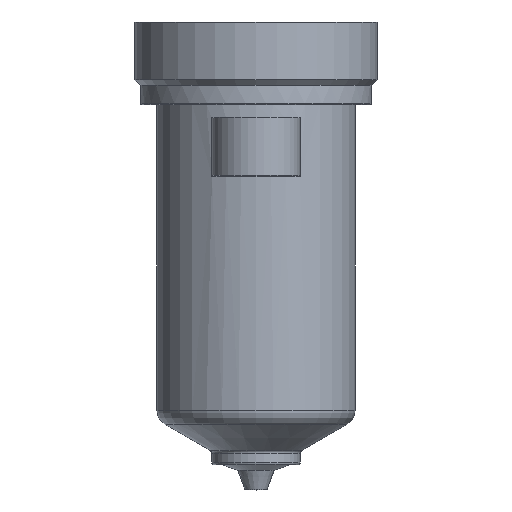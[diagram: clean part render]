
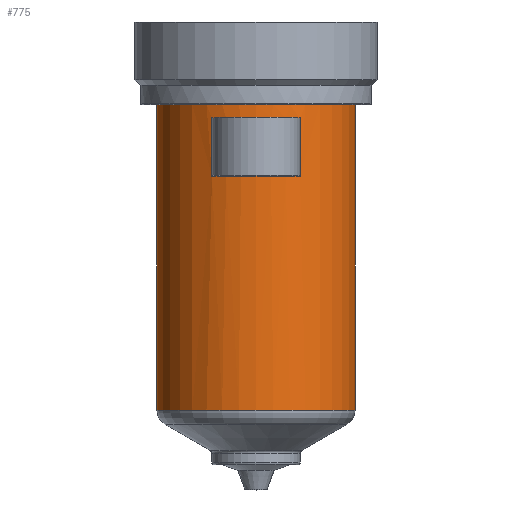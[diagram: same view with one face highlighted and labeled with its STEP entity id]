
A CAD part, top view. The second image highlights one B-rep face of the part: STEP entity #775.
In plain terms, the highlighted cylindrical face has radius 18 mm (diameter 36 mm), a partial arc.
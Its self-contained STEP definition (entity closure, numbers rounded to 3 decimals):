
#187=DIRECTION('',(0.,-1.,0.));
#188=VECTOR('',#187,55.506);
#189=CARTESIAN_POINT('',(18.,0.,0.));
#190=LINE('',#189,#188);
#191=CARTESIAN_POINT('',(0.,-55.506,0.));
#192=DIRECTION('',(0.,1.,0.));
#193=DIRECTION('',(-1.,0.,0.));
#194=AXIS2_PLACEMENT_3D('',#191,#192,#193);
#196=DIRECTION('',(0.,1.,0.));
#197=VECTOR('',#196,55.506);
#198=CARTESIAN_POINT('',(-18.,-55.506,0.));
#199=LINE('',#198,#197);
#200=CARTESIAN_POINT('',(0.,0.,0.));
#201=DIRECTION('',(0.,1.,0.));
#202=DIRECTION('',(-1.,0.,0.));
#203=AXIS2_PLACEMENT_3D('',#200,#201,#202);
#349=DIRECTION('',(0.,-1.,0.));
#350=VECTOR('',#349,10.5);
#351=CARTESIAN_POINT('',(-8.,-2.5,16.125));
#352=LINE('',#351,#350);
#353=CARTESIAN_POINT('',(0.,-13.,0.));
#354=DIRECTION('',(0.,1.,0.));
#355=DIRECTION('',(-0.444,0.,0.896));
#356=AXIS2_PLACEMENT_3D('',#353,#354,#355);
#379=CARTESIAN_POINT('',(0.,-2.5,0.));
#380=DIRECTION('',(0.,-1.,0.));
#381=DIRECTION('',(0.444,0.,0.896));
#382=AXIS2_PLACEMENT_3D('',#379,#380,#381);
#397=DIRECTION('',(0.,-1.,0.));
#398=VECTOR('',#397,10.5);
#399=CARTESIAN_POINT('',(8.,-2.5,16.125));
#400=LINE('',#399,#398);
#458=CARTESIAN_POINT('',(-18.,0.,0.));
#459=CARTESIAN_POINT('',(18.,0.,0.));
#460=VERTEX_POINT('',#458);
#461=VERTEX_POINT('',#459);
#470=CARTESIAN_POINT('',(-8.,-2.5,16.125));
#471=VERTEX_POINT('',#470);
#472=CARTESIAN_POINT('',(8.,-2.5,16.125));
#473=VERTEX_POINT('',#472);
#506=CARTESIAN_POINT('',(18.,-55.506,0.));
#507=VERTEX_POINT('',#506);
#516=CARTESIAN_POINT('',(-18.,-55.506,0.));
#517=VERTEX_POINT('',#516);
#534=CARTESIAN_POINT('',(-8.,-13.,16.125));
#535=CARTESIAN_POINT('',(8.,-13.,16.125));
#536=VERTEX_POINT('',#534);
#537=VERTEX_POINT('',#535);
#753=CARTESIAN_POINT('',(0.,16.4,0.));
#754=DIRECTION('',(0.,-1.,0.));
#755=DIRECTION('',(-1.,0.,0.));
#756=AXIS2_PLACEMENT_3D('',#753,#754,#755);
#757=CYLINDRICAL_SURFACE('',#756,18.);
#758=ORIENTED_EDGE('',*,*,#747,.T.);
#760=ORIENTED_EDGE('',*,*,#759,.F.);
#761=ORIENTED_EDGE('',*,*,#743,.T.);
#762=ORIENTED_EDGE('',*,*,#733,.T.);
#763=EDGE_LOOP('',(#758,#760,#761,#762));
#764=FACE_OUTER_BOUND('',#763,.F.);
#766=ORIENTED_EDGE('',*,*,#765,.T.);
#768=ORIENTED_EDGE('',*,*,#767,.T.);
#770=ORIENTED_EDGE('',*,*,#769,.F.);
#772=ORIENTED_EDGE('',*,*,#771,.T.);
#773=EDGE_LOOP('',(#766,#768,#770,#772));
#774=FACE_BOUND('',#773,.F.);
#775=ADVANCED_FACE('',(#764,#774),#757,.T.);
#195=CIRCLE('',#194,18.);
#204=CIRCLE('',#203,18.);
#357=CIRCLE('',#356,18.);
#383=CIRCLE('',#382,18.);
#733=EDGE_CURVE('',#460,#461,#204,.T.);
#743=EDGE_CURVE('',#517,#460,#199,.T.);
#747=EDGE_CURVE('',#461,#507,#190,.T.);
#759=EDGE_CURVE('',#517,#507,#195,.T.);
#765=EDGE_CURVE('',#471,#536,#352,.T.);
#767=EDGE_CURVE('',#536,#537,#357,.T.);
#769=EDGE_CURVE('',#473,#537,#400,.T.);
#771=EDGE_CURVE('',#473,#471,#383,.T.);
